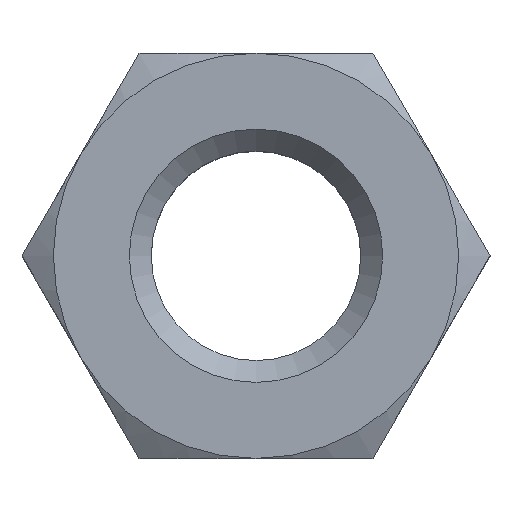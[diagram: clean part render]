
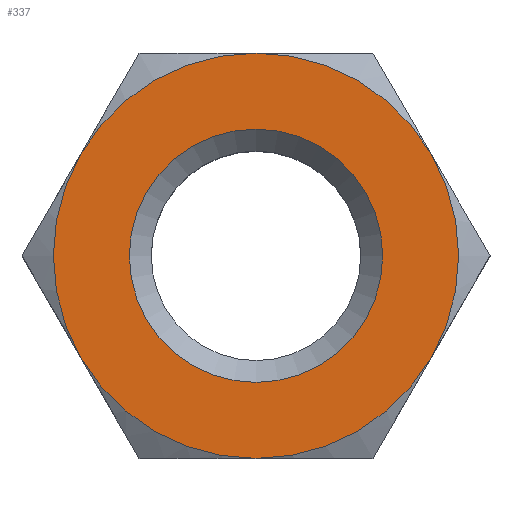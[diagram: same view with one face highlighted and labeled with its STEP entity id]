
A CAD part, top view. The second image highlights one B-rep face of the part: STEP entity #337.
In plain terms, the highlighted planar face has unit normal (0, 0, 1).
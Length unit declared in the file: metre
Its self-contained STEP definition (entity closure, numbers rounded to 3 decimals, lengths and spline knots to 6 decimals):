
#22=CIRCLE('',#375,0.0025);
#23=CIRCLE('',#376,0.004);
#24=CIRCLE('',#377,0.004);
#25=CIRCLE('',#378,0.004);
#26=CIRCLE('',#379,0.004);
#27=CIRCLE('',#380,0.004);
#28=CIRCLE('',#381,0.004);
#87=ORIENTED_EDGE('',*,*,#175,.T.);
#88=ORIENTED_EDGE('',*,*,#176,.T.);
#89=ORIENTED_EDGE('',*,*,#177,.T.);
#90=ORIENTED_EDGE('',*,*,#178,.T.);
#91=ORIENTED_EDGE('',*,*,#179,.T.);
#92=ORIENTED_EDGE('',*,*,#180,.T.);
#93=ORIENTED_EDGE('',*,*,#181,.T.);
#175=EDGE_CURVE('',#216,#216,#22,.F.);
#176=EDGE_CURVE('',#195,#213,#23,.T.);
#177=EDGE_CURVE('',#213,#201,#24,.T.);
#178=EDGE_CURVE('',#201,#215,#25,.T.);
#179=EDGE_CURVE('',#215,#207,#26,.T.);
#180=EDGE_CURVE('',#207,#211,#27,.T.);
#181=EDGE_CURVE('',#211,#195,#28,.T.);
#195=VERTEX_POINT('',#522);
#201=VERTEX_POINT('',#541);
#207=VERTEX_POINT('',#560);
#211=VERTEX_POINT('',#577);
#213=VERTEX_POINT('',#590);
#215=VERTEX_POINT('',#603);
#216=VERTEX_POINT('',#610);
#263=EDGE_LOOP('',(#87));
#264=EDGE_LOOP('',(#88,#89,#90,#91,#92,#93));
#293=FACE_BOUND('',#263,.T.);
#294=FACE_BOUND('',#264,.T.);
#323=PLANE('',#374);
#337=ADVANCED_FACE('',(#293,#294),#323,.T.);
#374=AXIS2_PLACEMENT_3D('',#608,#441,#442);
#375=AXIS2_PLACEMENT_3D('',#609,#443,#444);
#376=AXIS2_PLACEMENT_3D('',#611,#445,#446);
#377=AXIS2_PLACEMENT_3D('',#612,#447,#448);
#378=AXIS2_PLACEMENT_3D('',#613,#449,#450);
#379=AXIS2_PLACEMENT_3D('',#614,#451,#452);
#380=AXIS2_PLACEMENT_3D('',#615,#453,#454);
#381=AXIS2_PLACEMENT_3D('',#616,#455,#456);
#441=DIRECTION('',(0.,0.,1.));
#442=DIRECTION('',(1.,0.,0.));
#443=DIRECTION('',(0.,0.,1.));
#444=DIRECTION('',(1.,0.,0.));
#445=DIRECTION('',(0.,0.,1.));
#446=DIRECTION('',(1.,0.,0.));
#447=DIRECTION('',(0.,0.,1.));
#448=DIRECTION('',(1.,0.,0.));
#449=DIRECTION('',(0.,0.,1.));
#450=DIRECTION('',(1.,0.,0.));
#451=DIRECTION('',(0.,0.,1.));
#452=DIRECTION('',(1.,0.,0.));
#453=DIRECTION('',(0.,0.,1.));
#454=DIRECTION('',(1.,0.,0.));
#455=DIRECTION('',(0.,0.,1.));
#456=DIRECTION('',(1.,0.,0.));
#522=CARTESIAN_POINT('',(0.003464,-0.002,0.00255));
#541=CARTESIAN_POINT('',(0.,0.004,0.00255));
#560=CARTESIAN_POINT('',(-0.003464,-0.002,0.00255));
#577=CARTESIAN_POINT('',(0.,-0.004,0.00255));
#590=CARTESIAN_POINT('',(0.003464,0.002,0.00255));
#603=CARTESIAN_POINT('',(-0.003464,0.002,0.00255));
#608=CARTESIAN_POINT('',(0.,0.,0.00255));
#609=CARTESIAN_POINT('',(0.,0.,0.00255));
#610=CARTESIAN_POINT('',(0.0025,0.,0.00255));
#611=CARTESIAN_POINT('',(0.,0.,0.00255));
#612=CARTESIAN_POINT('',(0.,0.,0.00255));
#613=CARTESIAN_POINT('',(0.,0.,0.00255));
#614=CARTESIAN_POINT('',(0.,0.,0.00255));
#615=CARTESIAN_POINT('',(0.,0.,0.00255));
#616=CARTESIAN_POINT('',(0.,0.,0.00255));
